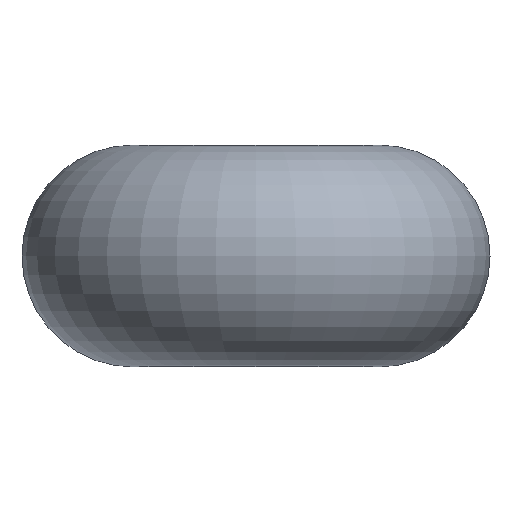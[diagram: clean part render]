
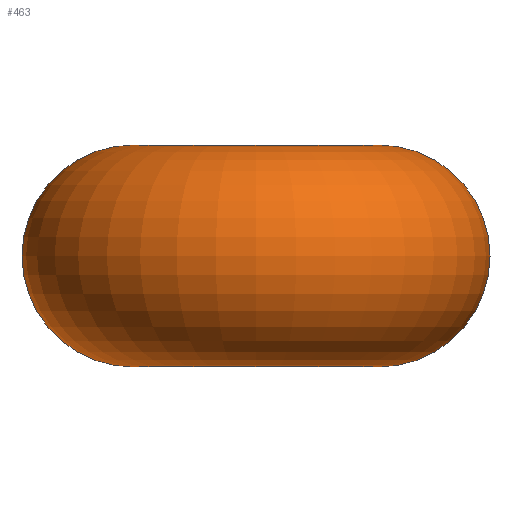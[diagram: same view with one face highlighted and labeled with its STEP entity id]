
A CAD part, left-side view. The second image highlights one B-rep face of the part: STEP entity #463.
In plain terms, the highlighted toroidal (fillet/blend) face has major radius 0.5 mm and minor radius 0.45 mm.
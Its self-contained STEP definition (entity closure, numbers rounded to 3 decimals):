
#29 = DIRECTION ( 'NONE',  ( 1., 0., 0. ) ) ;
#30 = DIRECTION ( 'NONE',  ( 0., 0., 1. ) ) ;
#31 = CARTESIAN_POINT ( 'NONE',  ( 0., 0., 0.45 ) ) ;
#32 = AXIS2_PLACEMENT_3D ( 'NONE', #31, #30, #29 ) ;
#38 = CIRCLE ( 'NONE', #32, 0.5 ) ;
#59 = CARTESIAN_POINT ( 'NONE',  ( 0.374, -0.332, 0.45 ) ) ;
#78 = DIRECTION ( 'NONE',  ( 0., 0., -1. ) ) ;
#79 = DIRECTION ( 'NONE',  ( 0.663, -0.748, 0. ) ) ;
#80 = CARTESIAN_POINT ( 'NONE',  ( 0.374, 0.332, 0. ) ) ;
#81 = AXIS2_PLACEMENT_3D ( 'NONE', #80, #79, #78 ) ;
#82 = CIRCLE ( 'NONE', #81, 0.45 ) ;
#100 = CARTESIAN_POINT ( 'NONE',  ( 0.711, 0.63, 0. ) ) ;
#111 = CARTESIAN_POINT ( 'NONE',  ( 0.711, -0.63, 0. ) ) ;
#112 = CARTESIAN_POINT ( 'NONE',  ( 0.374, -0.332, -0.45 ) ) ;
#120 = CARTESIAN_POINT ( 'NONE',  ( 0.374, 0.332, -0.45 ) ) ;
#155 = DIRECTION ( 'NONE',  ( 0., 0., -1. ) ) ;
#156 = DIRECTION ( 'NONE',  ( -0.663, -0.748, 0. ) ) ;
#157 = CARTESIAN_POINT ( 'NONE',  ( 0.374, -0.332, 0. ) ) ;
#158 = AXIS2_PLACEMENT_3D ( 'NONE', #157, #156, #155 ) ;
#159 = CIRCLE ( 'NONE', #158, 0.45 ) ;
#205 = DIRECTION ( 'NONE',  ( 0., 0., -1. ) ) ;
#206 = DIRECTION ( 'NONE',  ( 0.663, -0.748, 0. ) ) ;
#207 = CARTESIAN_POINT ( 'NONE',  ( 0.374, 0.332, 0. ) ) ;
#209 = CIRCLE ( 'NONE', #215, 0.45 ) ;
#215 = AXIS2_PLACEMENT_3D ( 'NONE', #207, #206, #205 ) ;
#217 = DIRECTION ( 'NONE',  ( -0.663, -0.748, 0. ) ) ;
#218 = CARTESIAN_POINT ( 'NONE',  ( 0.374, -0.332, 0. ) ) ;
#219 = AXIS2_PLACEMENT_3D ( 'NONE', #218, #217, #226 ) ;
#220 = CIRCLE ( 'NONE', #219, 0.45 ) ;
#226 = DIRECTION ( 'NONE',  ( 0., 0., -1. ) ) ;
#229 = TOROIDAL_SURFACE ( 'NONE', #239, 0.5, 0.45 ) ;
#230 = FACE_OUTER_BOUND ( 'NONE', #466, .T. ) ;
#236 = DIRECTION ( 'NONE',  ( 1., 0., 0. ) ) ;
#237 = DIRECTION ( 'NONE',  ( 0., 0., 1. ) ) ;
#238 = CARTESIAN_POINT ( 'NONE',  ( 0., 0., 0. ) ) ;
#239 = AXIS2_PLACEMENT_3D ( 'NONE', #238, #237, #236 ) ;
#242 = CARTESIAN_POINT ( 'NONE',  ( 0.374, 0.332, 0.45 ) ) ;
#244 = CIRCLE ( 'NONE', #249, 0.5 ) ;
#246 = DIRECTION ( 'NONE',  ( 1., 0., 0. ) ) ;
#247 = DIRECTION ( 'NONE',  ( 0., 0., 1. ) ) ;
#248 = CARTESIAN_POINT ( 'NONE',  ( 0., 0., -0.45 ) ) ;
#249 = AXIS2_PLACEMENT_3D ( 'NONE', #248, #247, #246 ) ;
#405 = VERTEX_POINT ( 'NONE', #120 ) ;
#410 = VERTEX_POINT ( 'NONE', #112 ) ;
#411 = VERTEX_POINT ( 'NONE', #111 ) ;
#416 = VERTEX_POINT ( 'NONE', #100 ) ;
#419 = EDGE_CURVE ( 'NONE', #405, #416, #82, .T. ) ;
#428 = VERTEX_POINT ( 'NONE', #59 ) ;
#438 = EDGE_CURVE ( 'NONE', #411, #428, #159, .T. ) ;
#442 = EDGE_CURVE ( 'NONE', #460, #428, #38, .T. ) ;
#445 = ORIENTED_EDGE ( 'NONE', *, *, #442, .F. ) ;
#446 = ORIENTED_EDGE ( 'NONE', *, *, #447, .F. ) ;
#447 = EDGE_CURVE ( 'NONE', #416, #460, #209, .T. ) ;
#448 = ORIENTED_EDGE ( 'NONE', *, *, #464, .T. ) ;
#452 = EDGE_CURVE ( 'NONE', #410, #411, #220, .T. ) ;
#460 = VERTEX_POINT ( 'NONE', #242 ) ;
#463 = ADVANCED_FACE ( 'NONE', ( #230 ), #229, .T. ) ;
#464 = EDGE_CURVE ( 'NONE', #405, #410, #244, .T. ) ;
#465 = ORIENTED_EDGE ( 'NONE', *, *, #438, .T. ) ;
#466 = EDGE_LOOP ( 'NONE', ( #467, #448, #472, #465, #445, #446 ) ) ;
#467 = ORIENTED_EDGE ( 'NONE', *, *, #419, .F. ) ;
#472 = ORIENTED_EDGE ( 'NONE', *, *, #452, .T. ) ;
